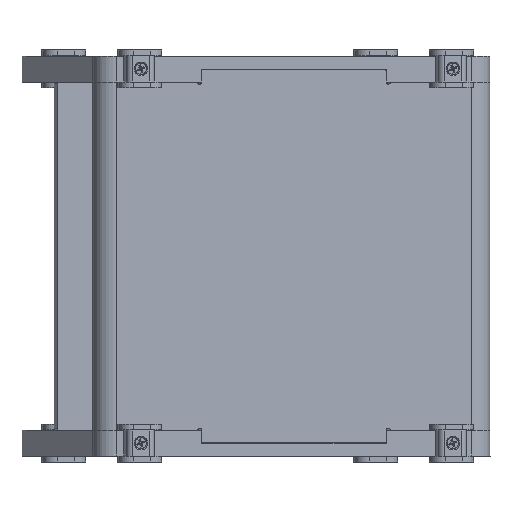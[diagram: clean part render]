
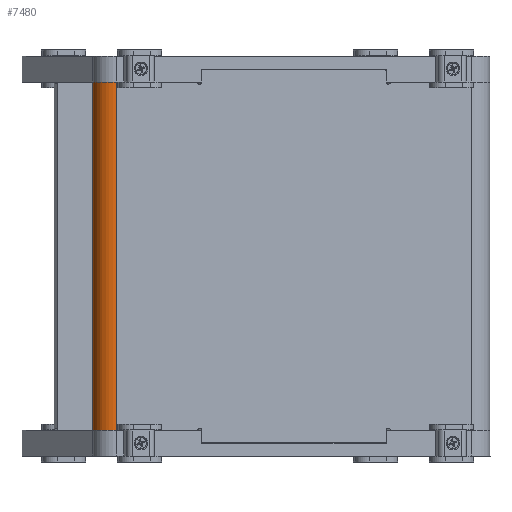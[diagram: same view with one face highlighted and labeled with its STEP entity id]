
A CAD part, front view. The second image highlights one B-rep face of the part: STEP entity #7480.
In plain terms, the highlighted cylindrical face has radius 15 mm (diameter 30 mm), a partial arc.
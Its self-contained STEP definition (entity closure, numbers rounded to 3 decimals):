
#796 = VECTOR ( 'NONE', #11617, 1000. ) ;
#1073 = VERTEX_POINT ( 'NONE', #15068 ) ;
#2944 = EDGE_CURVE ( 'NONE', #19865, #1073, #9366, .T. ) ;
#4013 = AXIS2_PLACEMENT_3D ( 'NONE', #22334, #17326, #11923 ) ;
#4805 = CARTESIAN_POINT ( 'NONE',  ( -138.914, -189.597, 3. ) ) ;
#4863 = FACE_OUTER_BOUND ( 'NONE', #20388, .T. ) ;
#5767 = CARTESIAN_POINT ( 'NONE',  ( -138.914, -433.597, 3. ) ) ;
#6931 = VECTOR ( 'NONE', #15024, 1000. ) ;
#7289 = EDGE_CURVE ( 'NONE', #19132, #10940, #19259, .T. ) ;
#7444 = DIRECTION ( 'NONE',  ( 0., 0., 1. ) ) ;
#7480 = ADVANCED_FACE ( 'NONE', ( #4863 ), #7571, .T. ) ;
#7571 = CYLINDRICAL_SURFACE ( 'NONE', #4013, 15. ) ;
#7747 = EDGE_CURVE ( 'NONE', #10940, #19865, #11887, .T. ) ;
#8304 = CARTESIAN_POINT ( 'NONE',  ( -153.914, -433.597, 3. ) ) ;
#8363 = ORIENTED_EDGE ( 'NONE', *, *, #7289, .F. ) ;
#9115 = DIRECTION ( 'NONE',  ( 0., -1., 0. ) ) ;
#9366 = LINE ( 'NONE', #11515, #6931 ) ;
#10093 = ORIENTED_EDGE ( 'NONE', *, *, #7747, .F. ) ;
#10836 = EDGE_CURVE ( 'NONE', #1073, #19132, #22096, .T. ) ;
#10940 = VERTEX_POINT ( 'NONE', #18840 ) ;
#11515 = CARTESIAN_POINT ( 'NONE',  ( -153.914, -189.597, 3. ) ) ;
#11617 = DIRECTION ( 'NONE',  ( 0., -1., 0. ) ) ;
#11721 = ORIENTED_EDGE ( 'NONE', *, *, #2944, .F. ) ;
#11775 = DIRECTION ( 'NONE',  ( 0., 1., 0. ) ) ;
#11887 = CIRCLE ( 'NONE', #19560, 15. ) ;
#11923 = DIRECTION ( 'NONE',  ( -1., 0., 0. ) ) ;
#13223 = AXIS2_PLACEMENT_3D ( 'NONE', #4805, #11775, #20514 ) ;
#15024 = DIRECTION ( 'NONE',  ( 0., 1., 0. ) ) ;
#15068 = CARTESIAN_POINT ( 'NONE',  ( -153.914, -189.597, 3. ) ) ;
#16668 = CARTESIAN_POINT ( 'NONE',  ( -138.914, -433.597, 18. ) ) ;
#17326 = DIRECTION ( 'NONE',  ( 0., 1., 0. ) ) ;
#18840 = CARTESIAN_POINT ( 'NONE',  ( -138.914, -433.597, 18. ) ) ;
#19132 = VERTEX_POINT ( 'NONE', #21808 ) ;
#19259 = LINE ( 'NONE', #16668, #796 ) ;
#19446 = ORIENTED_EDGE ( 'NONE', *, *, #10836, .F. ) ;
#19560 = AXIS2_PLACEMENT_3D ( 'NONE', #5767, #9115, #7444 ) ;
#19865 = VERTEX_POINT ( 'NONE', #8304 ) ;
#20388 = EDGE_LOOP ( 'NONE', ( #19446, #11721, #10093, #8363 ) ) ;
#20514 = DIRECTION ( 'NONE',  ( 0., 0., -1. ) ) ;
#21808 = CARTESIAN_POINT ( 'NONE',  ( -138.914, -189.597, 18. ) ) ;
#22096 = CIRCLE ( 'NONE', #13223, 15. ) ;
#22334 = CARTESIAN_POINT ( 'NONE',  ( -138.914, -189.597, 3. ) ) ;
